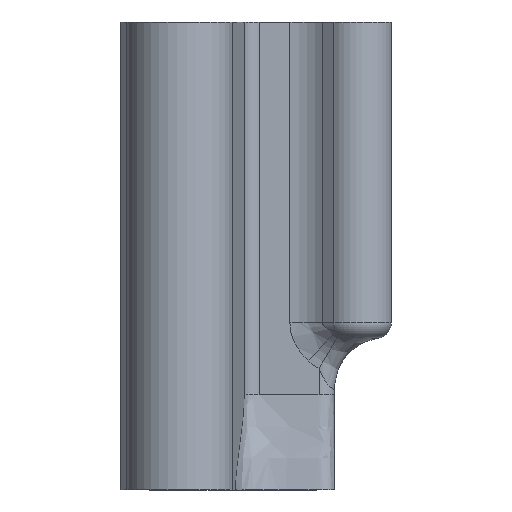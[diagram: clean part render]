
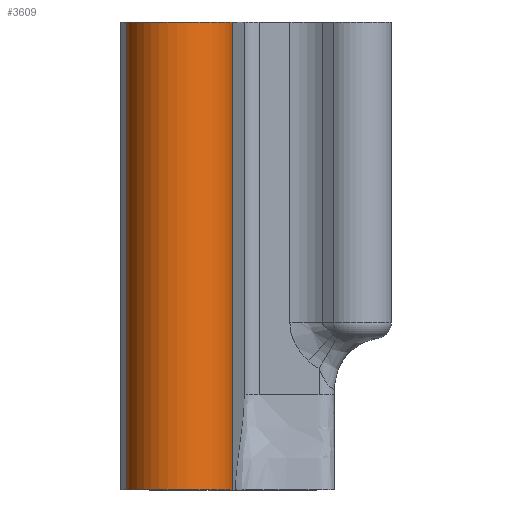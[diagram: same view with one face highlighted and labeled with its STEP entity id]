
A CAD part, top view. The second image highlights one B-rep face of the part: STEP entity #3609.
In plain terms, the highlighted cylindrical face has radius 10.45 mm (diameter 20.9 mm), a partial arc.
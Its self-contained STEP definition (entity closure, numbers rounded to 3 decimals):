
#314=LINE('',#6472,#621);
#315=LINE('',#6474,#622);
#621=VECTOR('',#4735,10.);
#622=VECTOR('',#4738,10.);
#768=CYLINDRICAL_SURFACE('',#3951,10.45);
#905=FACE_OUTER_BOUND('',#1108,.T.);
#1108=EDGE_LOOP('',(#2903,#2904,#2905,#2906));
#1283=CIRCLE('',#3760,10.45);
#1303=CIRCLE('',#3786,10.45);
#1499=VERTEX_POINT('',#5582);
#1500=VERTEX_POINT('',#5584);
#1535=VERTEX_POINT('',#5666);
#1536=VERTEX_POINT('',#5668);
#1877=EDGE_CURVE('',#1500,#1499,#1283,.T.);
#1919=EDGE_CURVE('',#1535,#1536,#1303,.T.);
#2205=EDGE_CURVE('',#1500,#1535,#314,.T.);
#2206=EDGE_CURVE('',#1499,#1536,#315,.T.);
#2903=ORIENTED_EDGE('',*,*,#1877,.T.);
#2904=ORIENTED_EDGE('',*,*,#2206,.T.);
#2905=ORIENTED_EDGE('',*,*,#1919,.F.);
#2906=ORIENTED_EDGE('',*,*,#2205,.F.);
#3609=ADVANCED_FACE('',(#905),#768,.T.);
#3760=AXIS2_PLACEMENT_3D('',#5585,#4185,#4186);
#3786=AXIS2_PLACEMENT_3D('',#5669,#4259,#4260);
#3951=AXIS2_PLACEMENT_3D('',#6473,#4736,#4737);
#4185=DIRECTION('center_axis',(0.,1.,0.));
#4186=DIRECTION('ref_axis',(1.,0.,0.));
#4259=DIRECTION('center_axis',(0.,1.,0.));
#4260=DIRECTION('ref_axis',(1.,0.,0.));
#4735=DIRECTION('',(0.,1.,0.));
#4736=DIRECTION('center_axis',(0.,1.,0.));
#4737=DIRECTION('ref_axis',(1.,0.,0.));
#4738=DIRECTION('',(0.,1.,0.));
#5582=CARTESIAN_POINT('',(21.907,-1.5,16.934));
#5584=CARTESIAN_POINT('',(1.387,-1.5,15.832));
#5585=CARTESIAN_POINT('Origin',(11.749,-1.5,14.48));
#5666=CARTESIAN_POINT('',(1.387,89.5,15.832));
#5668=CARTESIAN_POINT('',(21.907,89.5,16.934));
#5669=CARTESIAN_POINT('Origin',(11.749,89.5,14.48));
#6472=CARTESIAN_POINT('',(1.387,55.,15.832));
#6473=CARTESIAN_POINT('Origin',(11.749,55.,14.48));
#6474=CARTESIAN_POINT('',(21.907,55.,16.934));
